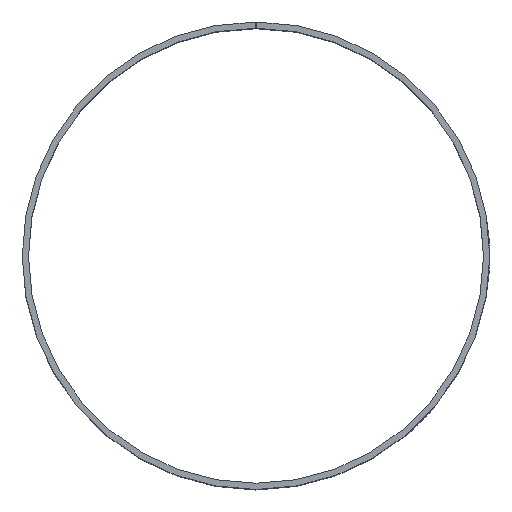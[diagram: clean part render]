
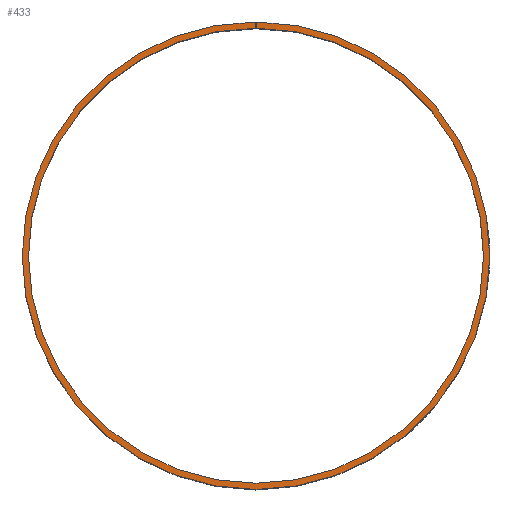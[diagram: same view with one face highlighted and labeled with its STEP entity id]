
A CAD part, top view. The second image highlights one B-rep face of the part: STEP entity #433.
In plain terms, the highlighted planar face has unit normal (0, 0, 1).
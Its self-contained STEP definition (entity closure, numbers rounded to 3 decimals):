
#2 = DIRECTION ( 'NONE',  ( 0., 0., 1. ) ) ;
#6 = AXIS2_PLACEMENT_3D ( 'NONE', #218, #2, #312 ) ;
#30 = VERTEX_POINT ( 'NONE', #600 ) ;
#38 = CARTESIAN_POINT ( 'NONE',  ( 0., 0., 100. ) ) ;
#51 = ORIENTED_EDGE ( 'NONE', *, *, #172, .F. ) ;
#141 = EDGE_CURVE ( 'NONE', #30, #345, #633, .T. ) ;
#147 = LINE ( 'NONE', #490, #568 ) ;
#159 = ORIENTED_EDGE ( 'NONE', *, *, #275, .F. ) ;
#172 = EDGE_CURVE ( 'NONE', #441, #535, #302, .T. ) ;
#177 = EDGE_LOOP ( 'NONE', ( #51, #580, #406, #159 ) ) ;
#184 = DIRECTION ( 'NONE',  ( 0., 0., 1. ) ) ;
#205 = CARTESIAN_POINT ( 'NONE',  ( -0.257, 75., 100. ) ) ;
#218 = CARTESIAN_POINT ( 'NONE',  ( 0., 0., 100. ) ) ;
#239 = DIRECTION ( 'NONE',  ( 0.003, -1., 0. ) ) ;
#275 = EDGE_CURVE ( 'NONE', #535, #30, #603, .T. ) ;
#280 = AXIS2_PLACEMENT_3D ( 'NONE', #463, #359, #408 ) ;
#302 = CIRCLE ( 'NONE', #6, 73. ) ;
#305 = CARTESIAN_POINT ( 'NONE',  ( 0.25, 73., 100. ) ) ;
#312 = DIRECTION ( 'NONE',  ( 1., 0., 0. ) ) ;
#345 = VERTEX_POINT ( 'NONE', #205 ) ;
#359 = DIRECTION ( 'NONE',  ( 0., 0., -1. ) ) ;
#366 = DIRECTION ( 'NONE',  ( 0.003, 1., 0. ) ) ;
#390 = CARTESIAN_POINT ( 'NONE',  ( -0.25, 73., 100. ) ) ;
#396 = DIRECTION ( 'NONE',  ( 0., -1., 0. ) ) ;
#406 = ORIENTED_EDGE ( 'NONE', *, *, #141, .F. ) ;
#408 = DIRECTION ( 'NONE',  ( 0., -1., 0. ) ) ;
#433 = ADVANCED_FACE ( 'NONE', ( #439 ), #593, .T. ) ;
#438 = AXIS2_PLACEMENT_3D ( 'NONE', #38, #184, #396 ) ;
#439 = FACE_OUTER_BOUND ( 'NONE', #177, .T. ) ;
#441 = VERTEX_POINT ( 'NONE', #390 ) ;
#452 = EDGE_CURVE ( 'NONE', #345, #441, #147, .T. ) ;
#463 = CARTESIAN_POINT ( 'NONE',  ( 0., 0., 100. ) ) ;
#489 = VECTOR ( 'NONE', #366, 1000. ) ;
#490 = CARTESIAN_POINT ( 'NONE',  ( -0.257, 75., 100. ) ) ;
#514 = CARTESIAN_POINT ( 'NONE',  ( 0., 0., 100. ) ) ;
#535 = VERTEX_POINT ( 'NONE', #305 ) ;
#568 = VECTOR ( 'NONE', #239, 1000. ) ;
#580 = ORIENTED_EDGE ( 'NONE', *, *, #452, .F. ) ;
#593 = PLANE ( 'NONE',  #438 ) ;
#600 = CARTESIAN_POINT ( 'NONE',  ( 0.257, 75., 100. ) ) ;
#603 = LINE ( 'NONE', #514, #489 ) ;
#633 = CIRCLE ( 'NONE', #280, 75. ) ;
